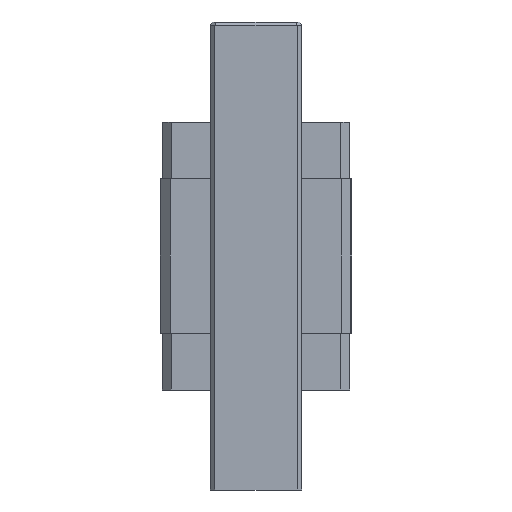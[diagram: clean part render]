
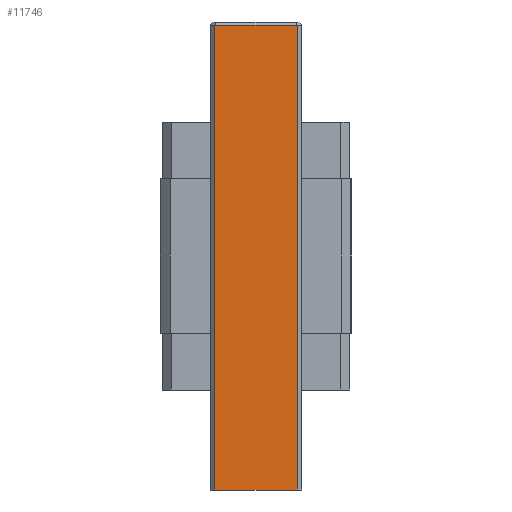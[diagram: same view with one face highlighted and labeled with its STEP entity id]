
A CAD part, front view. The second image highlights one B-rep face of the part: STEP entity #11746.
In plain terms, the highlighted planar face has unit normal (0, -1, 0).
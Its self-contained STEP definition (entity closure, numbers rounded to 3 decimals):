
#10707=DIRECTION('',(1.,0.,0.));
#10708=VECTOR('',#10707,20.6);
#10709=CARTESIAN_POINT('',(-10.3,-14.6,-58.5));
#10710=LINE('',#10709,#10708);
#10980=DIRECTION('',(1.,0.,0.));
#10981=VECTOR('',#10980,20.6);
#10982=CARTESIAN_POINT('',(-10.3,-14.6,57.634));
#10983=LINE('',#10982,#10981);
#10984=DIRECTION('',(0.,0.,1.));
#10985=VECTOR('',#10984,116.134);
#10986=CARTESIAN_POINT('',(-10.3,-14.6,-58.5));
#10987=LINE('',#10986,#10985);
#10992=DIRECTION('',(0.,0.,1.));
#10993=VECTOR('',#10992,116.134);
#10994=CARTESIAN_POINT('',(10.3,-14.6,-58.5));
#10995=LINE('',#10994,#10993);
#11178=CARTESIAN_POINT('',(-10.3,-14.6,-58.5));
#11179=VERTEX_POINT('',#11178);
#11180=CARTESIAN_POINT('',(10.3,-14.6,-58.5));
#11181=VERTEX_POINT('',#11180);
#11242=CARTESIAN_POINT('',(10.3,-14.6,57.634));
#11243=VERTEX_POINT('',#11242);
#11246=CARTESIAN_POINT('',(-10.3,-14.6,57.634));
#11247=VERTEX_POINT('',#11246);
#11734=CARTESIAN_POINT('',(-10.3,-14.6,-58.5));
#11735=DIRECTION('',(0.,-1.,0.));
#11736=DIRECTION('',(1.,0.,0.));
#11737=AXIS2_PLACEMENT_3D('',#11734,#11735,#11736);
#11738=PLANE('',#11737);
#11739=ORIENTED_EDGE('',*,*,#11725,.T.);
#11741=ORIENTED_EDGE('',*,*,#11740,.F.);
#11742=ORIENTED_EDGE('',*,*,#11327,.F.);
#11743=ORIENTED_EDGE('',*,*,#11700,.T.);
#11744=EDGE_LOOP('',(#11739,#11741,#11742,#11743));
#11745=FACE_OUTER_BOUND('',#11744,.F.);
#11327=EDGE_CURVE('',#11179,#11181,#10710,.T.);
#11700=EDGE_CURVE('',#11179,#11247,#10987,.T.);
#11725=EDGE_CURVE('',#11247,#11243,#10983,.T.);
#11740=EDGE_CURVE('',#11181,#11243,#10995,.T.);
#11746=ADVANCED_FACE('',(#11745),#11738,.T.);
